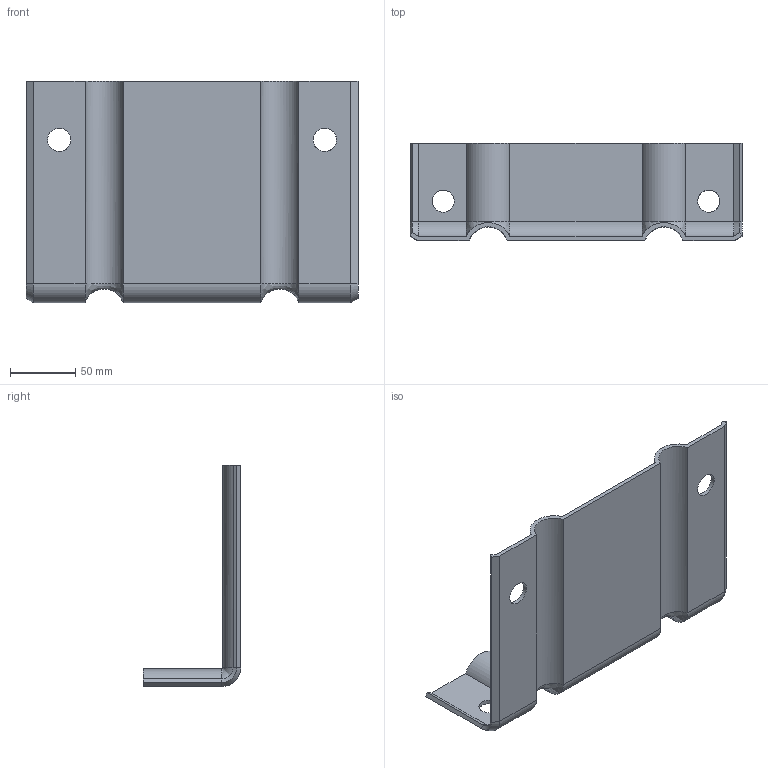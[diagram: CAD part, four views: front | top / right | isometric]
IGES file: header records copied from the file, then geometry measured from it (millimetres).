
Global section: file name: SC300; native system: Autodesk RealDWG; preprocessor: Autodesk Translation Framework DWG producer (atf_dwg_producer); organization: unknown; date: 20241104.101454; units: millimetre
Bounding box: 255 x 75 x 170 mm (x, y, z)
Volume: 200070.2 mm3; surface area: 129022.8 mm2
Topology: 1 solids, 1 shells, 54 faces, 124 edges, 72 vertices
Faces by surface type: bspline 54
